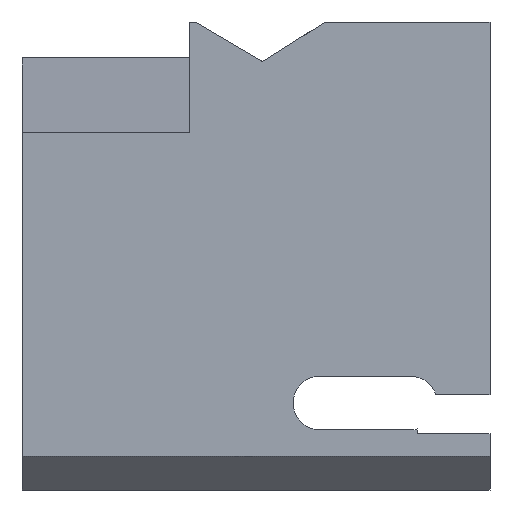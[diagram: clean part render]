
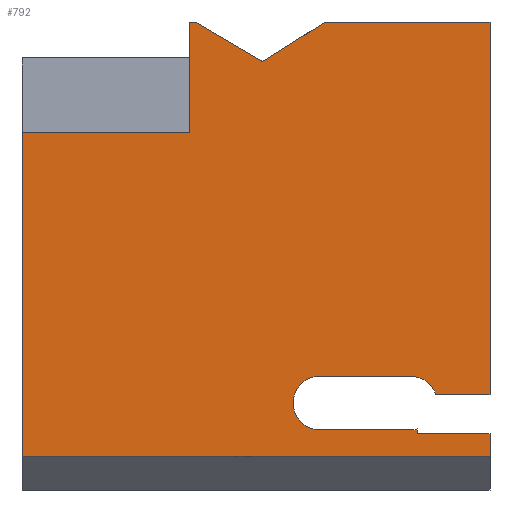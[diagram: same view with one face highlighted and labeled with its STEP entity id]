
A CAD part, left-side view. The second image highlights one B-rep face of the part: STEP entity #792.
In plain terms, the highlighted planar face has unit normal (-1, 0, 0).
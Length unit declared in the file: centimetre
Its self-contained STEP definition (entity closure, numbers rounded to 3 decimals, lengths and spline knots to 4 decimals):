
#6 = DIRECTION ( 'NONE',  ( 0., 0., -1. ) ) ;
#23 = CARTESIAN_POINT ( 'NONE',  ( 0., 363.6227, 243.0678 ) ) ;
#33 = EDGE_CURVE ( 'NONE', #1296, #414, #318, .T. ) ;
#34 = CARTESIAN_POINT ( 'NONE',  ( 0., 0., 203.5208 ) ) ;
#41 = CARTESIAN_POINT ( 'NONE',  ( 0., 1000., 1000. ) ) ;
#45 = CARTESIAN_POINT ( 'NONE',  ( 0., 169.8911, 128.5814 ) ) ;
#47 = EDGE_CURVE ( 'NONE', #469, #581, #741, .T. ) ;
#57 = CARTESIAN_POINT ( 'NONE',  ( 0., 1000., 1000. ) ) ;
#59 = ORIENTED_EDGE ( 'NONE', *, *, #33, .T. ) ;
#100 = CARTESIAN_POINT ( 'NONE',  ( 0., 0., 120.068 ) ) ;
#118 = VERTEX_POINT ( 'NONE', #45 ) ;
#120 = CARTESIAN_POINT ( 'NONE',  ( 0., 486.0167, 915.3591 ) ) ;
#124 = VERTEX_POINT ( 'NONE', #120 ) ;
#125 = ORIENTED_EDGE ( 'NONE', *, *, #625, .F. ) ;
#130 = CARTESIAN_POINT ( 'NONE',  ( 0., 629.9652, 1000. ) ) ;
#132 = ORIENTED_EDGE ( 'NONE', *, *, #824, .F. ) ;
#151 = CIRCLE ( 'NONE', #985, 57.2432 ) ;
#157 = VECTOR ( 'NONE', #643, 100. ) ;
#158 = EDGE_CURVE ( 'NONE', #979, #991, #1150, .T. ) ;
#160 = VECTOR ( 'NONE', #1202, 100. ) ;
#177 = ORIENTED_EDGE ( 'NONE', *, *, #664, .F. ) ;
#186 = EDGE_LOOP ( 'NONE', ( #1320, #806, #177, #125, #678, #478, #933, #788, #1057, #315, #873, #59, #1119, #132, #1243, #1110, #322, #1304 ) ) ;
#211 = CARTESIAN_POINT ( 'NONE',  ( 0., 642.8411, 764.2153 ) ) ;
#212 = LINE ( 'NONE', #607, #387 ) ;
#213 = EDGE_CURVE ( 'NONE', #567, #1296, #967, .T. ) ;
#232 = CARTESIAN_POINT ( 'NONE',  ( 0., 155.3193, 120.068 ) ) ;
#233 = CARTESIAN_POINT ( 'NONE',  ( 0., 363.6227, 185.8246 ) ) ;
#240 = DIRECTION ( 'NONE',  ( 0., 1., 0. ) ) ;
#241 = CARTESIAN_POINT ( 'NONE',  ( 0., 0., 1000. ) ) ;
#261 = CARTESIAN_POINT ( 'NONE',  ( 0., 1000., 71.8222 ) ) ;
#268 = CARTESIAN_POINT ( 'NONE',  ( 0., 1000., 1000. ) ) ;
#269 = VERTEX_POINT ( 'NONE', #959 ) ;
#284 = VECTOR ( 'NONE', #435, 100. ) ;
#301 = VECTOR ( 'NONE', #376, 100. ) ;
#315 = ORIENTED_EDGE ( 'NONE', *, *, #455, .T. ) ;
#318 = LINE ( 'NONE', #732, #1070 ) ;
#322 = ORIENTED_EDGE ( 'NONE', *, *, #1266, .F. ) ;
#373 = DIRECTION ( 'NONE',  ( 0., -1., 0. ) ) ;
#376 = DIRECTION ( 'NONE',  ( 0., -1., 0. ) ) ;
#387 = VECTOR ( 'NONE', #622, 100. ) ;
#391 = CARTESIAN_POINT ( 'NONE',  ( 0., 642.8411, 1000. ) ) ;
#392 = VERTEX_POINT ( 'NONE', #496 ) ;
#400 = EDGE_CURVE ( 'NONE', #637, #1251, #1018, .T. ) ;
#406 = VECTOR ( 'NONE', #1138, 100. ) ;
#409 = EDGE_CURVE ( 'NONE', #118, #979, #434, .T. ) ;
#414 = VERTEX_POINT ( 'NONE', #1094 ) ;
#434 = CIRCLE ( 'NONE', #1120, 57.2432 ) ;
#435 = DIRECTION ( 'NONE',  ( 0., 1., 0. ) ) ;
#449 = DIRECTION ( 'NONE',  ( 0., 0., -1. ) ) ;
#455 = EDGE_CURVE ( 'NONE', #637, #567, #459, .T. ) ;
#459 = LINE ( 'NONE', #870, #160 ) ;
#469 = VERTEX_POINT ( 'NONE', #1285 ) ;
#478 = ORIENTED_EDGE ( 'NONE', *, *, #602, .T. ) ;
#483 = VERTEX_POINT ( 'NONE', #1208 ) ;
#496 = CARTESIAN_POINT ( 'NONE',  ( 0., 352.0545, 1000. ) ) ;
#507 = DIRECTION ( 'NONE',  ( 1., 0., 0. ) ) ;
#521 = CARTESIAN_POINT ( 'NONE',  ( 0., 642.8411, 764.2153 ) ) ;
#529 = CARTESIAN_POINT ( 'NONE',  ( 0., 0., 1000. ) ) ;
#536 = LINE ( 'NONE', #34, #284 ) ;
#547 = CARTESIAN_POINT ( 'NONE',  ( 0., 155.3193, 130.4671 ) ) ;
#567 = VERTEX_POINT ( 'NONE', #821 ) ;
#581 = VERTEX_POINT ( 'NONE', #632 ) ;
#588 = EDGE_CURVE ( 'NONE', #581, #483, #151, .T. ) ;
#602 = EDGE_CURVE ( 'NONE', #392, #124, #1130, .T. ) ;
#607 = CARTESIAN_POINT ( 'NONE',  ( 0., 0., 1000. ) ) ;
#621 = DIRECTION ( 'NONE',  ( 0., 0., -1. ) ) ;
#622 = DIRECTION ( 'NONE',  ( 0., 0., -1. ) ) ;
#624 = LINE ( 'NONE', #529, #1244 ) ;
#625 = EDGE_CURVE ( 'NONE', #676, #854, #624, .T. ) ;
#632 = CARTESIAN_POINT ( 'NONE',  ( 0., 363.6227, 243.0678 ) ) ;
#637 = VERTEX_POINT ( 'NONE', #521 ) ;
#643 = DIRECTION ( 'NONE',  ( 0., 0., -1. ) ) ;
#645 = CIRCLE ( 'NONE', #755, 57.2432 ) ;
#651 = DIRECTION ( 'NONE',  ( 0., -1., 0. ) ) ;
#661 = VERTEX_POINT ( 'NONE', #130 ) ;
#664 = EDGE_CURVE ( 'NONE', #854, #1085, #536, .T. ) ;
#671 = VECTOR ( 'NONE', #449, 100. ) ;
#673 = VECTOR ( 'NONE', #912, 100. ) ;
#676 = VERTEX_POINT ( 'NONE', #241 ) ;
#678 = ORIENTED_EDGE ( 'NONE', *, *, #1188, .F. ) ;
#710 = VECTOR ( 'NONE', #713, 100. ) ;
#713 = DIRECTION ( 'NONE',  ( 0., -1., 0. ) ) ;
#722 = CARTESIAN_POINT ( 'NONE',  ( 0., 169.8911, 185.8246 ) ) ;
#724 = EDGE_CURVE ( 'NONE', #1251, #661, #955, .T. ) ;
#725 = LINE ( 'NONE', #1226, #1290 ) ;
#726 = DIRECTION ( 'NONE',  ( -1., 0., 0. ) ) ;
#732 = CARTESIAN_POINT ( 'NONE',  ( 0., 1000., 71.8222 ) ) ;
#734 = AXIS2_PLACEMENT_3D ( 'NONE', #833, #507, #812 ) ;
#735 = DIRECTION ( 'NONE',  ( 0., 0., -1. ) ) ;
#741 = LINE ( 'NONE', #23, #780 ) ;
#743 = CARTESIAN_POINT ( 'NONE',  ( 0., 352.0545, 1000. ) ) ;
#755 = AXIS2_PLACEMENT_3D ( 'NONE', #1032, #1124, #1238 ) ;
#780 = VECTOR ( 'NONE', #240, 100. ) ;
#788 = ORIENTED_EDGE ( 'NONE', *, *, #724, .F. ) ;
#792 = ADVANCED_FACE ( 'NONE', ( #1324 ), #910, .F. ) ;
#806 = ORIENTED_EDGE ( 'NONE', *, *, #874, .F. ) ;
#809 = EDGE_CURVE ( 'NONE', #124, #661, #725, .T. ) ;
#812 = DIRECTION ( 'NONE',  ( 0., 0., -1. ) ) ;
#821 = CARTESIAN_POINT ( 'NONE',  ( 0., 1000., 764.2153 ) ) ;
#824 = EDGE_CURVE ( 'NONE', #991, #269, #1247, .T. ) ;
#833 = CARTESIAN_POINT ( 'NONE',  ( 0., 1000., 1000. ) ) ;
#854 = VERTEX_POINT ( 'NONE', #1108 ) ;
#856 = DIRECTION ( 'NONE',  ( 0., -1., 0. ) ) ;
#870 = CARTESIAN_POINT ( 'NONE',  ( 0., 642.8411, 764.2153 ) ) ;
#873 = ORIENTED_EDGE ( 'NONE', *, *, #213, .T. ) ;
#874 = EDGE_CURVE ( 'NONE', #1085, #469, #645, .T. ) ;
#885 = LINE ( 'NONE', #897, #301 ) ;
#888 = EDGE_CURVE ( 'NONE', #269, #414, #212, .T. ) ;
#891 = CARTESIAN_POINT ( 'NONE',  ( 0., 115.4518, 203.5208 ) ) ;
#897 = CARTESIAN_POINT ( 'NONE',  ( 0., 169.8911, 128.5814 ) ) ;
#910 = PLANE ( 'NONE',  #734 ) ;
#912 = DIRECTION ( 'NONE',  ( 0., 0., 1. ) ) ;
#915 = DIRECTION ( 'NONE',  ( 0., 0.862, 0.507 ) ) ;
#933 = ORIENTED_EDGE ( 'NONE', *, *, #809, .T. ) ;
#947 = CARTESIAN_POINT ( 'NONE',  ( 0., 155.3193, 120.068 ) ) ;
#955 = LINE ( 'NONE', #41, #1046 ) ;
#959 = CARTESIAN_POINT ( 'NONE',  ( 0., 0., 120.068 ) ) ;
#967 = LINE ( 'NONE', #57, #671 ) ;
#979 = VERTEX_POINT ( 'NONE', #547 ) ;
#985 = AXIS2_PLACEMENT_3D ( 'NONE', #233, #726, #735 ) ;
#991 = VERTEX_POINT ( 'NONE', #947 ) ;
#1018 = LINE ( 'NONE', #211, #673 ) ;
#1032 = CARTESIAN_POINT ( 'NONE',  ( 0., 169.8911, 185.8246 ) ) ;
#1046 = VECTOR ( 'NONE', #856, 100. ) ;
#1057 = ORIENTED_EDGE ( 'NONE', *, *, #400, .F. ) ;
#1070 = VECTOR ( 'NONE', #651, 100. ) ;
#1085 = VERTEX_POINT ( 'NONE', #891 ) ;
#1094 = CARTESIAN_POINT ( 'NONE',  ( 0., 0., 71.8222 ) ) ;
#1108 = CARTESIAN_POINT ( 'NONE',  ( 0., 0., 203.5208 ) ) ;
#1110 = ORIENTED_EDGE ( 'NONE', *, *, #409, .F. ) ;
#1119 = ORIENTED_EDGE ( 'NONE', *, *, #888, .F. ) ;
#1120 = AXIS2_PLACEMENT_3D ( 'NONE', #722, #1126, #621 ) ;
#1124 = DIRECTION ( 'NONE',  ( -1., 0., 0. ) ) ;
#1126 = DIRECTION ( 'NONE',  ( -1., 0., 0. ) ) ;
#1130 = LINE ( 'NONE', #743, #406 ) ;
#1138 = DIRECTION ( 'NONE',  ( 0., 0.845, -0.534 ) ) ;
#1150 = LINE ( 'NONE', #232, #157 ) ;
#1178 = VECTOR ( 'NONE', #373, 100. ) ;
#1188 = EDGE_CURVE ( 'NONE', #392, #676, #1287, .T. ) ;
#1202 = DIRECTION ( 'NONE',  ( 0., 1., 0. ) ) ;
#1208 = CARTESIAN_POINT ( 'NONE',  ( 0., 363.6227, 128.5814 ) ) ;
#1226 = CARTESIAN_POINT ( 'NONE',  ( 0., 486.0167, 915.3591 ) ) ;
#1238 = DIRECTION ( 'NONE',  ( 0., 0., -1. ) ) ;
#1243 = ORIENTED_EDGE ( 'NONE', *, *, #158, .F. ) ;
#1244 = VECTOR ( 'NONE', #6, 100. ) ;
#1247 = LINE ( 'NONE', #100, #710 ) ;
#1251 = VERTEX_POINT ( 'NONE', #391 ) ;
#1266 = EDGE_CURVE ( 'NONE', #483, #118, #885, .T. ) ;
#1285 = CARTESIAN_POINT ( 'NONE',  ( 0., 169.8911, 243.0678 ) ) ;
#1287 = LINE ( 'NONE', #268, #1178 ) ;
#1290 = VECTOR ( 'NONE', #915, 100. ) ;
#1296 = VERTEX_POINT ( 'NONE', #261 ) ;
#1304 = ORIENTED_EDGE ( 'NONE', *, *, #588, .F. ) ;
#1320 = ORIENTED_EDGE ( 'NONE', *, *, #47, .F. ) ;
#1324 = FACE_OUTER_BOUND ( 'NONE', #186, .T. ) ;
